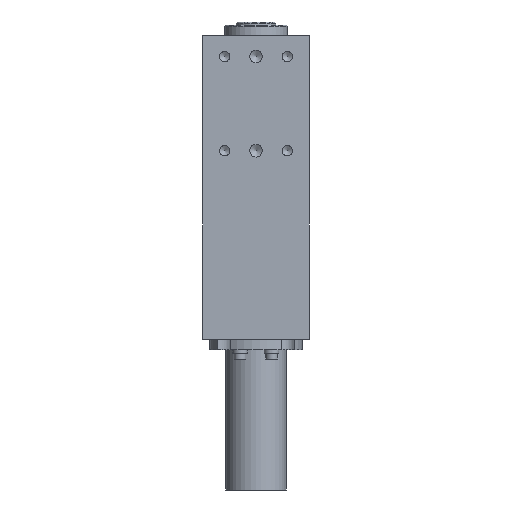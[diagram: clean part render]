
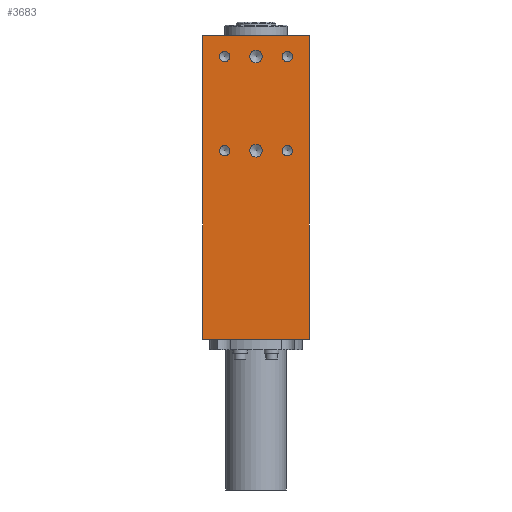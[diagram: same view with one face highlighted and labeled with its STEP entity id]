
A CAD part, front view. The second image highlights one B-rep face of the part: STEP entity #3683.
In plain terms, the highlighted planar face has unit normal (0, -1, 0) as drawn and (1, 0, 0) by its records, which use the part's own axes.
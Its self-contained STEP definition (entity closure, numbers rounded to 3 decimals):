
#275=FACE_BOUND('',#886,.T.);
#276=FACE_BOUND('',#887,.T.);
#277=FACE_BOUND('',#888,.T.);
#278=FACE_BOUND('',#889,.T.);
#279=FACE_BOUND('',#890,.T.);
#280=FACE_BOUND('',#891,.T.);
#373=PLANE('',#4221);
#637=FACE_OUTER_BOUND('',#885,.T.);
#885=EDGE_LOOP('',(#3322,#3323,#3324,#3325));
#886=EDGE_LOOP('',(#3326,#3327));
#887=EDGE_LOOP('',(#3328,#3329));
#888=EDGE_LOOP('',(#3330,#3331));
#889=EDGE_LOOP('',(#3332,#3333));
#890=EDGE_LOOP('',(#3334,#3335));
#891=EDGE_LOOP('',(#3336,#3337));
#1035=LINE('',#5964,#1279);
#1111=LINE('',#6392,#1355);
#1123=LINE('',#6414,#1367);
#1124=LINE('',#6416,#1368);
#1279=VECTOR('',#4880,10.);
#1355=VECTOR('',#5248,10.);
#1367=VECTOR('',#5280,10.);
#1368=VECTOR('',#5283,10.);
#1569=CIRCLE('',#4087,2.459);
#1570=CIRCLE('',#4088,2.459);
#1573=CIRCLE('',#4093,2.459);
#1574=CIRCLE('',#4094,2.459);
#1577=CIRCLE('',#4099,2.459);
#1578=CIRCLE('',#4100,2.459);
#1581=CIRCLE('',#4105,2.459);
#1582=CIRCLE('',#4106,2.459);
#1585=CIRCLE('',#4111,3.);
#1586=CIRCLE('',#4112,3.);
#1589=CIRCLE('',#4117,3.);
#1590=CIRCLE('',#4118,3.);
#1834=VERTEX_POINT('',#5961);
#1835=VERTEX_POINT('',#5963);
#1856=VERTEX_POINT('',#6020);
#1857=VERTEX_POINT('',#6021);
#1861=VERTEX_POINT('',#6033);
#1862=VERTEX_POINT('',#6034);
#1866=VERTEX_POINT('',#6046);
#1867=VERTEX_POINT('',#6047);
#1871=VERTEX_POINT('',#6059);
#1872=VERTEX_POINT('',#6060);
#1876=VERTEX_POINT('',#6072);
#1877=VERTEX_POINT('',#6073);
#1881=VERTEX_POINT('',#6085);
#1882=VERTEX_POINT('',#6086);
#1960=VERTEX_POINT('',#6389);
#1961=VERTEX_POINT('',#6391);
#2248=EDGE_CURVE('',#1834,#1835,#1035,.T.);
#2275=EDGE_CURVE('',#1856,#1857,#1569,.T.);
#2276=EDGE_CURVE('',#1857,#1856,#1570,.T.);
#2281=EDGE_CURVE('',#1861,#1862,#1573,.T.);
#2282=EDGE_CURVE('',#1862,#1861,#1574,.T.);
#2287=EDGE_CURVE('',#1866,#1867,#1577,.T.);
#2288=EDGE_CURVE('',#1867,#1866,#1578,.T.);
#2293=EDGE_CURVE('',#1871,#1872,#1581,.T.);
#2294=EDGE_CURVE('',#1872,#1871,#1582,.T.);
#2299=EDGE_CURVE('',#1876,#1877,#1585,.T.);
#2300=EDGE_CURVE('',#1877,#1876,#1586,.T.);
#2305=EDGE_CURVE('',#1881,#1882,#1589,.T.);
#2306=EDGE_CURVE('',#1882,#1881,#1590,.T.);
#2416=EDGE_CURVE('',#1960,#1961,#1111,.T.);
#2428=EDGE_CURVE('',#1835,#1960,#1123,.T.);
#2429=EDGE_CURVE('',#1834,#1961,#1124,.T.);
#3322=ORIENTED_EDGE('',*,*,#2248,.F.);
#3323=ORIENTED_EDGE('',*,*,#2429,.T.);
#3324=ORIENTED_EDGE('',*,*,#2416,.F.);
#3325=ORIENTED_EDGE('',*,*,#2428,.F.);
#3326=ORIENTED_EDGE('',*,*,#2275,.T.);
#3327=ORIENTED_EDGE('',*,*,#2276,.T.);
#3328=ORIENTED_EDGE('',*,*,#2281,.T.);
#3329=ORIENTED_EDGE('',*,*,#2282,.T.);
#3330=ORIENTED_EDGE('',*,*,#2287,.T.);
#3331=ORIENTED_EDGE('',*,*,#2288,.T.);
#3332=ORIENTED_EDGE('',*,*,#2293,.T.);
#3333=ORIENTED_EDGE('',*,*,#2294,.T.);
#3334=ORIENTED_EDGE('',*,*,#2299,.T.);
#3335=ORIENTED_EDGE('',*,*,#2300,.T.);
#3336=ORIENTED_EDGE('',*,*,#2305,.T.);
#3337=ORIENTED_EDGE('',*,*,#2306,.T.);
#3683=ADVANCED_FACE('',(#637,#275,#276,#277,#278,#279,#280),#373,.T.);
#4087=AXIS2_PLACEMENT_3D('',#6022,#4941,#4942);
#4088=AXIS2_PLACEMENT_3D('',#6023,#4943,#4944);
#4093=AXIS2_PLACEMENT_3D('',#6035,#4955,#4956);
#4094=AXIS2_PLACEMENT_3D('',#6036,#4957,#4958);
#4099=AXIS2_PLACEMENT_3D('',#6048,#4969,#4970);
#4100=AXIS2_PLACEMENT_3D('',#6049,#4971,#4972);
#4105=AXIS2_PLACEMENT_3D('',#6061,#4983,#4984);
#4106=AXIS2_PLACEMENT_3D('',#6062,#4985,#4986);
#4111=AXIS2_PLACEMENT_3D('',#6074,#4997,#4998);
#4112=AXIS2_PLACEMENT_3D('',#6075,#4999,#5000);
#4117=AXIS2_PLACEMENT_3D('',#6087,#5011,#5012);
#4118=AXIS2_PLACEMENT_3D('',#6088,#5013,#5014);
#4221=AXIS2_PLACEMENT_3D('',#6420,#5289,#5290);
#4880=DIRECTION('',(0.,-1.,0.));
#4941=DIRECTION('center_axis',(-1.,0.,0.));
#4942=DIRECTION('ref_axis',(0.,0.,-1.));
#4943=DIRECTION('center_axis',(-1.,0.,0.));
#4944=DIRECTION('ref_axis',(0.,0.,-1.));
#4955=DIRECTION('center_axis',(-1.,0.,0.));
#4956=DIRECTION('ref_axis',(0.,0.,-1.));
#4957=DIRECTION('center_axis',(-1.,0.,0.));
#4958=DIRECTION('ref_axis',(0.,0.,-1.));
#4969=DIRECTION('center_axis',(-1.,0.,0.));
#4970=DIRECTION('ref_axis',(0.,0.,-1.));
#4971=DIRECTION('center_axis',(-1.,0.,0.));
#4972=DIRECTION('ref_axis',(0.,0.,-1.));
#4983=DIRECTION('center_axis',(-1.,0.,0.));
#4984=DIRECTION('ref_axis',(0.,0.,-1.));
#4985=DIRECTION('center_axis',(-1.,0.,0.));
#4986=DIRECTION('ref_axis',(0.,0.,-1.));
#4997=DIRECTION('center_axis',(-1.,0.,0.));
#4998=DIRECTION('ref_axis',(0.,0.,-1.));
#4999=DIRECTION('center_axis',(-1.,0.,0.));
#5000=DIRECTION('ref_axis',(0.,0.,-1.));
#5011=DIRECTION('center_axis',(-1.,0.,0.));
#5012=DIRECTION('ref_axis',(0.,0.,-1.));
#5013=DIRECTION('center_axis',(-1.,0.,0.));
#5014=DIRECTION('ref_axis',(0.,0.,-1.));
#5248=DIRECTION('',(0.,1.,0.));
#5280=DIRECTION('',(0.,0.,1.));
#5283=DIRECTION('',(0.,0.,1.));
#5289=DIRECTION('center_axis',(1.,0.,0.));
#5290=DIRECTION('ref_axis',(0.,1.,0.));
#5961=CARTESIAN_POINT('',(37.,25.4,0.));
#5963=CARTESIAN_POINT('',(37.,-25.4,0.));
#5964=CARTESIAN_POINT('',(37.,25.4,0.));
#6020=CARTESIAN_POINT('',(37.,15.,87.542));
#6021=CARTESIAN_POINT('',(37.,15.,92.459));
#6022=CARTESIAN_POINT('Origin',(37.,15.,90.));
#6023=CARTESIAN_POINT('Origin',(37.,15.,90.));
#6033=CARTESIAN_POINT('',(37.,-15.,132.542));
#6034=CARTESIAN_POINT('',(37.,-15.,137.459));
#6035=CARTESIAN_POINT('Origin',(37.,-15.,135.));
#6036=CARTESIAN_POINT('Origin',(37.,-15.,135.));
#6046=CARTESIAN_POINT('',(37.,-15.,87.542));
#6047=CARTESIAN_POINT('',(37.,-15.,92.459));
#6048=CARTESIAN_POINT('Origin',(37.,-15.,90.));
#6049=CARTESIAN_POINT('Origin',(37.,-15.,90.));
#6059=CARTESIAN_POINT('',(37.,15.,132.542));
#6060=CARTESIAN_POINT('',(37.,15.,137.459));
#6061=CARTESIAN_POINT('Origin',(37.,15.,135.));
#6062=CARTESIAN_POINT('Origin',(37.,15.,135.));
#6072=CARTESIAN_POINT('',(37.,0.,132.));
#6073=CARTESIAN_POINT('',(37.,0.,138.));
#6074=CARTESIAN_POINT('Origin',(37.,0.,135.));
#6075=CARTESIAN_POINT('Origin',(37.,0.,135.));
#6085=CARTESIAN_POINT('',(37.,0.,87.));
#6086=CARTESIAN_POINT('',(37.,0.,93.));
#6087=CARTESIAN_POINT('Origin',(37.,0.,90.));
#6088=CARTESIAN_POINT('Origin',(37.,0.,90.));
#6389=CARTESIAN_POINT('',(37.,-25.4,145.));
#6391=CARTESIAN_POINT('',(37.,25.4,145.));
#6392=CARTESIAN_POINT('',(37.,25.4,145.));
#6414=CARTESIAN_POINT('',(37.,-25.4,0.));
#6416=CARTESIAN_POINT('',(37.,25.4,0.));
#6420=CARTESIAN_POINT('Origin',(37.,-25.4,0.));
